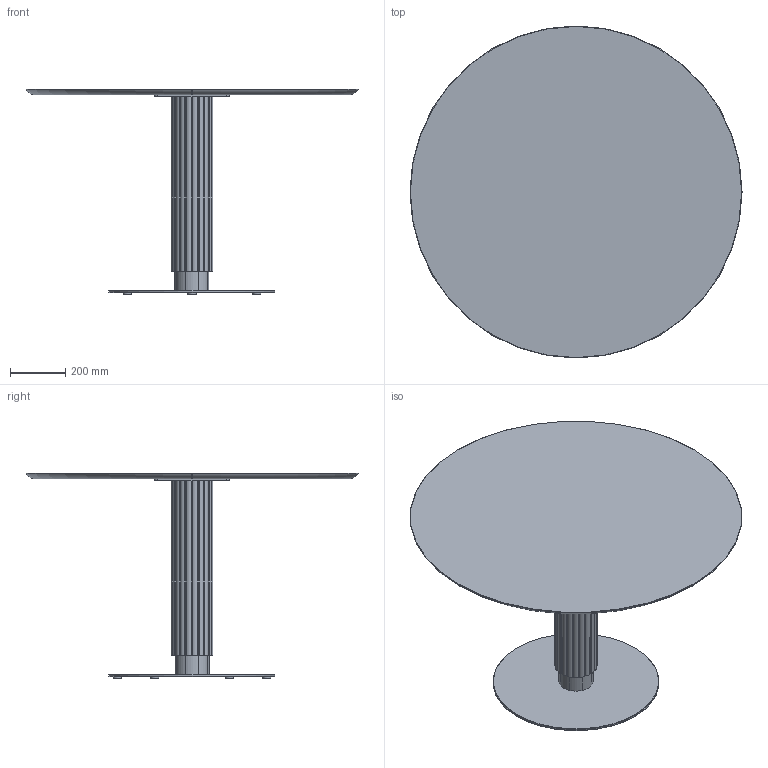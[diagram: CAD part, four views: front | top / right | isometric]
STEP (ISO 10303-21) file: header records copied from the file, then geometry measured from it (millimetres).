
FILE_DESCRIPTION( ('This file contains a STEP AP42 implementation' ,'as created by ZW3D STEP Interface translator.') ,'2;1' );
FILE_NAME( 'God - B_Rond - F1 - M3 - 1200 x 1200 x 750.stp' ,'24 912.1137 8', (''), ('ZWCAD Software Co.'), 'Version 1.0', 'ZW3D to STEP translator', '' );
FILE_SCHEMA(('AUTOMOTIVE_DESIGN { 1 0 10303 214 1 1 1 1 }'));
Length unit declared in the file: millimetre
Products named in the file (15): 0; PIED BISTROT PARAMETRIQUE_; CROIX ACIER 370 V.02_; CRX-X370-02_; SOCLE ACIER C Ø600 V.02_; SCL-D600-02_; PLA-R30A-01_; PLA-R30A-01; COLONNE ACIER Ø48.5 V.02_; TUB-D048-02_; PLA-R48A-01_; Colonne GODRON H700_; WUERTH 0276063020 Euro-screw 6.3x2 Verzinkt_; PLATEAU BISTROT PARAMETRIQUE_; insert_m6_13_
Assembly tree (25 placements, depth 3):
  0
  PIED BISTROT PARAMETRIQUE_
    CROIX ACIER 370 V.02_
      CRX-X370-02_
    SOCLE ACIER C Ø600 V.02_
      SCL-D600-02_
      PLA-R30A-01_
      PLA-R30A-01  x5
    COLONNE ACIER Ø48.5 V.02_
      TUB-D048-02_
      PLA-R48A-01_  x2
    Colonne GODRON H700_
    WUERTH 0276063020 Euro-screw 6.3x2 Verzinkt_
    PLATEAU BISTROT PARAMETRIQUE_
      insert_m6_13_  x8
Bounding box: 1200 x 1200 x 744 mm (x, y, z)
Volume: 35378253.8 mm3; surface area: 4292405.6 mm2
Topology: 29 solids, 29 shells, 656 faces, 1625 edges, 1042 vertices
Faces by surface type: plane 290, cylinder 197, bspline 121, cone 43, torus 5
Full cylindrical faces by diameter (mm): 4.88 x1, 6 x8, 6.3 x1, 8 x47, 12 x2, 14 x2, 30 x6, 44.5 x3, 48.5 x1, 600 x1
Entity records: 16242 total; most frequent: CARTESIAN_POINT 4039, DIRECTION 2257, ORIENTED_EDGE 2240, EDGE_CURVE 1120, AXIS2_PLACEMENT_3D 808, VERTEX_POINT 728, VECTOR 641, LINE 641
